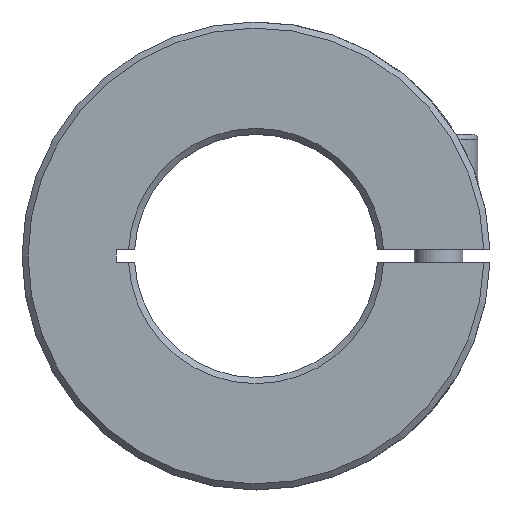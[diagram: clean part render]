
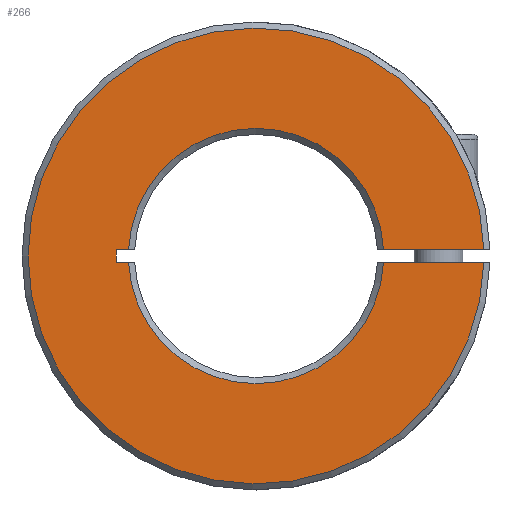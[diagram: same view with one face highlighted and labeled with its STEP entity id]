
A CAD part, front view. The second image highlights one B-rep face of the part: STEP entity #266.
In plain terms, the highlighted planar face has unit normal (0, -1, 0).
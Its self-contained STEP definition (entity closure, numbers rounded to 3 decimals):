
#266 = ADVANCED_FACE( '', ( #531 ), #532, .F. );
#531 = FACE_OUTER_BOUND( '', #779, .T. );
#532 = PLANE( '', #780 );
#779 = EDGE_LOOP( '', ( #1254, #1255, #1256, #1257, #1258, #1259, #1260, #1261 ) );
#780 = AXIS2_PLACEMENT_3D( '', #1262, #1263, #1264 );
#1254 = ORIENTED_EDGE( '', *, *, #1426, .T. );
#1255 = ORIENTED_EDGE( '', *, *, #1411, .T. );
#1256 = ORIENTED_EDGE( '', *, *, #1391, .T. );
#1257 = ORIENTED_EDGE( '', *, *, #1507, .T. );
#1258 = ORIENTED_EDGE( '', *, *, #1404, .F. );
#1259 = ORIENTED_EDGE( '', *, *, #1498, .T. );
#1260 = ORIENTED_EDGE( '', *, *, #1480, .F. );
#1261 = ORIENTED_EDGE( '', *, *, #1512, .F. );
#1262 = CARTESIAN_POINT( '', ( 0., -108., 0. ) );
#1263 = DIRECTION( '', ( 0., 1., 0. ) );
#1264 = DIRECTION( '', ( 0., 0., 1. ) );
#1391 = EDGE_CURVE( '', #1625, #1626, #1627, .T. );
#1404 = EDGE_CURVE( '', #1645, #1647, #1648, .T. );
#1411 = EDGE_CURVE( '', #1657, #1625, #1659, .T. );
#1426 = EDGE_CURVE( '', #1684, #1657, #1685, .T. );
#1480 = EDGE_CURVE( '', #1760, #1762, #1763, .T. );
#1498 = EDGE_CURVE( '', #1645, #1762, #1783, .T. );
#1507 = EDGE_CURVE( '', #1626, #1647, #1792, .F. );
#1512 = EDGE_CURVE( '', #1684, #1760, #1797, .T. );
#1625 = VERTEX_POINT( '', #2024 );
#1626 = VERTEX_POINT( '', #2025 );
#1627 = LINE( '', #2026, #2027 );
#1645 = VERTEX_POINT( '', #2053 );
#1647 = VERTEX_POINT( '', #2058 );
#1648 = LINE( '', #2059, #2060 );
#1657 = VERTEX_POINT( '', #2073 );
#1659 = CIRCLE( '', #2078, 21. );
#1684 = VERTEX_POINT( '', #2117 );
#1685 = LINE( '', #2118, #2119 );
#1760 = VERTEX_POINT( '', #2745 );
#1762 = VERTEX_POINT( '', #2748 );
#1763 = LINE( '', #2749, #2750 );
#1783 = CIRCLE( '', #2779, 21. );
#1792 = CIRCLE( '', #2798, 37.5 );
#1797 = LINE( '', #2803, #2804 );
#2024 = CARTESIAN_POINT( '', ( 20.976, -108., 1. ) );
#2025 = CARTESIAN_POINT( '', ( 37.487, -108., 1. ) );
#2026 = CARTESIAN_POINT( '', ( 0., -108., 1. ) );
#2027 = VECTOR( '', #2912, 1000. );
#2053 = CARTESIAN_POINT( '', ( 20.976, -108., -1. ) );
#2058 = CARTESIAN_POINT( '', ( 37.487, -108., -1. ) );
#2059 = CARTESIAN_POINT( '', ( 0., -108., -1. ) );
#2060 = VECTOR( '', #2927, 1000. );
#2073 = CARTESIAN_POINT( '', ( -20.976, -108., 1. ) );
#2078 = AXIS2_PLACEMENT_3D( '', #2935, #2936, #2937 );
#2117 = CARTESIAN_POINT( '', ( -23., -108., 1. ) );
#2118 = CARTESIAN_POINT( '', ( 0., -108., 1. ) );
#2119 = VECTOR( '', #2952, 1000. );
#2745 = CARTESIAN_POINT( '', ( -23., -108., -1. ) );
#2748 = CARTESIAN_POINT( '', ( -20.976, -108., -1. ) );
#2749 = CARTESIAN_POINT( '', ( 0., -108., -1. ) );
#2750 = VECTOR( '', #3015, 1000. );
#2779 = AXIS2_PLACEMENT_3D( '', #3025, #3026, #3027 );
#2798 = AXIS2_PLACEMENT_3D( '', #3035, #3036, #3037 );
#2803 = CARTESIAN_POINT( '', ( -23., -108., 0. ) );
#2804 = VECTOR( '', #3038, 1000. );
#2912 = DIRECTION( '', ( 1., 0., 0. ) );
#2927 = DIRECTION( '', ( 1., 0., 0. ) );
#2935 = CARTESIAN_POINT( '', ( 0., -108., 0. ) );
#2936 = DIRECTION( '', ( 0., 1., 0. ) );
#2937 = DIRECTION( '', ( 0., 0., 1. ) );
#2952 = DIRECTION( '', ( 1., 0., 0. ) );
#3015 = DIRECTION( '', ( 1., 0., 0. ) );
#3025 = CARTESIAN_POINT( '', ( 0., -108., 0. ) );
#3026 = DIRECTION( '', ( 0., 1., 0. ) );
#3027 = DIRECTION( '', ( 0., 0., 1. ) );
#3035 = CARTESIAN_POINT( '', ( 0., -108., 0. ) );
#3036 = DIRECTION( '', ( 0., 1., 0. ) );
#3037 = DIRECTION( '', ( 0., 0., 1. ) );
#3038 = DIRECTION( '', ( 0., 0., -1. ) );
